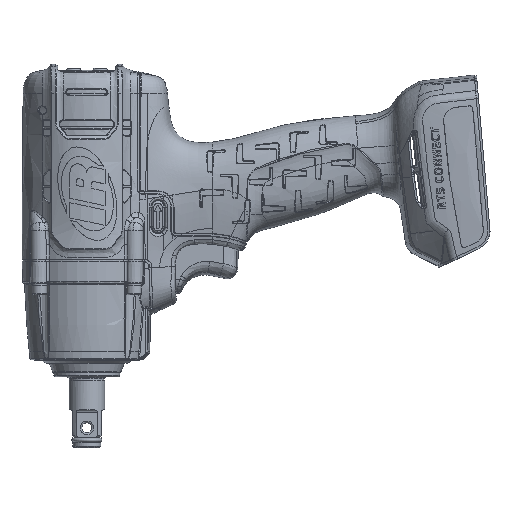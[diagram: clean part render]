
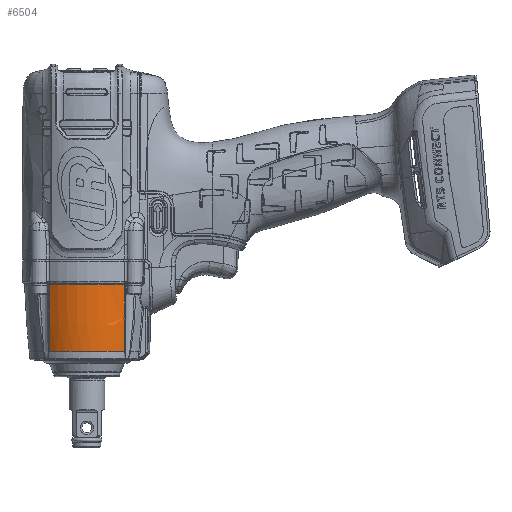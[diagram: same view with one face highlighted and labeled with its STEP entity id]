
A CAD part, left-side view. The second image highlights one B-rep face of the part: STEP entity #6504.
In plain terms, the highlighted face is a revolution surface.
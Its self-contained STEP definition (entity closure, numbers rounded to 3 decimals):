
#201=SURFACE_OF_REVOLUTION('',#218,#208);
#208=AXIS1_PLACEMENT('',#166443,#95347);
#218=(
BOUNDED_CURVE()
B_SPLINE_CURVE(2,(#166440,#166441,#166442),.UNSPECIFIED.,.F.,.F.)
B_SPLINE_CURVE_WITH_KNOTS((3,3),(0.,1.),.UNSPECIFIED.)
CURVE()
GEOMETRIC_REPRESENTATION_ITEM()
RATIONAL_B_SPLINE_CURVE((1.,1.,1.))
REPRESENTATION_ITEM('')
);
#6504=ADVANCED_FACE('',(#12858),#201,.T.);
#12858=FACE_OUTER_BOUND('',#18073,.T.);
#18073=EDGE_LOOP('',(#38543,#38544,#38545,#38546,#38547,#38548));
#24363=B_SPLINE_CURVE_WITH_KNOTS('',3,(#164967,#164968,#164969,#164970),
 .UNSPECIFIED.,.F.,.F.,(4,4),(0.,1.),.UNSPECIFIED.);
#24367=B_SPLINE_CURVE_WITH_KNOTS('',3,(#165039,#165040,#165041,#165042),
 .UNSPECIFIED.,.F.,.F.,(4,4),(0.,1.),.UNSPECIFIED.);
#24436=B_SPLINE_CURVE_WITH_KNOTS('',3,(#166398,#166399,#166400,#166401,#166402,
#166403,#166404,#166405),.UNSPECIFIED.,.F.,.F.,(4,2,2,4),(0.,0.5,0.75,1.),
 .UNSPECIFIED.);
#24437=B_SPLINE_CURVE_WITH_KNOTS('',3,(#166430,#166431,#166432,#166433,#166434,
#166435,#166436,#166437),.UNSPECIFIED.,.F.,.F.,(4,2,2,4),(0.,0.25,0.5,1.),
 .UNSPECIFIED.);
#31820=CIRCLE('',#89247,27.956);
#31871=CIRCLE('',#89311,25.935);
#38543=ORIENTED_EDGE('',*,*,#71993,.T.);
#38544=ORIENTED_EDGE('',*,*,#71876,.T.);
#38545=ORIENTED_EDGE('',*,*,#71869,.T.);
#38546=ORIENTED_EDGE('',*,*,#71868,.T.);
#38547=ORIENTED_EDGE('',*,*,#71992,.T.);
#38548=ORIENTED_EDGE('',*,*,#71994,.F.);
#62428=VERTEX_POINT('',#164869);
#62433=VERTEX_POINT('',#164966);
#62434=VERTEX_POINT('',#164984);
#62440=VERTEX_POINT('',#165043);
#62511=VERTEX_POINT('',#166397);
#62512=VERTEX_POINT('',#166438);
#71868=EDGE_CURVE('',#62428,#62433,#24363,.T.);
#71869=EDGE_CURVE('',#62434,#62428,#31820,.T.);
#71876=EDGE_CURVE('',#62440,#62434,#24367,.T.);
#71992=EDGE_CURVE('',#62433,#62511,#24436,.T.);
#71993=EDGE_CURVE('',#62512,#62440,#24437,.T.);
#71994=EDGE_CURVE('',#62512,#62511,#31871,.T.);
#89247=AXIS2_PLACEMENT_3D('',#164983,#95215,#95216);
#89311=AXIS2_PLACEMENT_3D('',#166439,#95345,#95346);
#95215=DIRECTION('',(0.,0.,-1.));
#95216=DIRECTION('',(0.,1.,0.));
#95345=DIRECTION('',(0.,0.,-1.));
#95346=DIRECTION('',(0.,1.,0.));
#95347=DIRECTION('',(0.,0.,-1.));
#164869=CARTESIAN_POINT('',(-22.256,16.917,-10.472));
#164966=CARTESIAN_POINT('',(-22.255,16.916,-10.51));
#164967=CARTESIAN_POINT('',(-22.256,16.917,-10.472));
#164968=CARTESIAN_POINT('',(-22.256,16.916,-10.485));
#164969=CARTESIAN_POINT('',(-22.256,16.916,-10.497));
#164970=CARTESIAN_POINT('',(-22.255,16.916,-10.51));
#164983=CARTESIAN_POINT('',(0.,0.,
-10.472));
#164984=CARTESIAN_POINT('',(-22.256,-16.917,-10.472));
#165039=CARTESIAN_POINT('',(-22.255,-16.916,-10.51));
#165040=CARTESIAN_POINT('',(-22.256,-16.916,-10.497));
#165041=CARTESIAN_POINT('',(-22.256,-16.916,-10.485));
#165042=CARTESIAN_POINT('',(-22.256,-16.917,-10.472));
#165043=CARTESIAN_POINT('',(-22.255,-16.916,-10.51));
#166397=CARTESIAN_POINT('',(-19.612,16.97,-40.482));
#166398=CARTESIAN_POINT('',(-22.255,16.916,-10.51));
#166399=CARTESIAN_POINT('',(-22.1,16.821,-15.529));
#166400=CARTESIAN_POINT('',(-21.858,16.725,-20.545));
#166401=CARTESIAN_POINT('',(-21.273,16.661,-28.054));
#166402=CARTESIAN_POINT('',(-21.042,16.654,-30.556));
#166403=CARTESIAN_POINT('',(-20.458,16.714,-35.541));
#166404=CARTESIAN_POINT('',(-20.12,16.765,-38.032));
#166405=CARTESIAN_POINT('',(-19.612,16.97,-40.482));
#166430=CARTESIAN_POINT('',(-19.612,-16.97,-40.482));
#166431=CARTESIAN_POINT('',(-20.12,-16.766,-38.035));
#166432=CARTESIAN_POINT('',(-20.458,-16.714,-35.54));
#166433=CARTESIAN_POINT('',(-21.042,-16.654,-30.556));
#166434=CARTESIAN_POINT('',(-21.273,-16.661,-28.055));
#166435=CARTESIAN_POINT('',(-21.858,-16.725,-20.545));
#166436=CARTESIAN_POINT('',(-22.1,-16.821,-15.529));
#166437=CARTESIAN_POINT('',(-22.255,-16.916,-10.51));
#166438=CARTESIAN_POINT('',(-19.612,-16.97,-40.482));
#166439=CARTESIAN_POINT('',(0.,0.,
-40.482));
#166440=CARTESIAN_POINT('',(0.,27.99,-9.506));
#166441=CARTESIAN_POINT('',(0.,27.432,-25.838));
#166442=CARTESIAN_POINT('',(0.,25.935,-40.482));
#166443=CARTESIAN_POINT('',(0.,0.,
-44.2));
